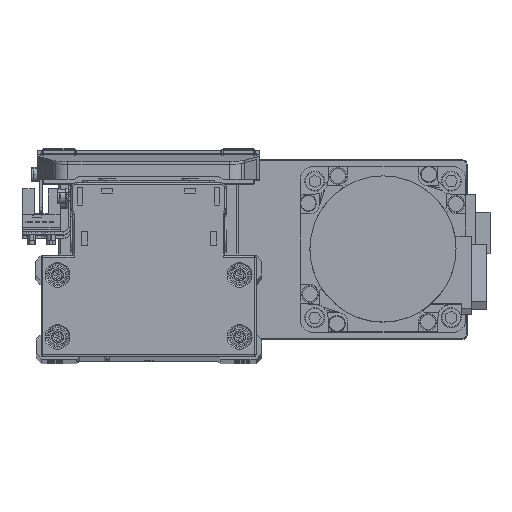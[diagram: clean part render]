
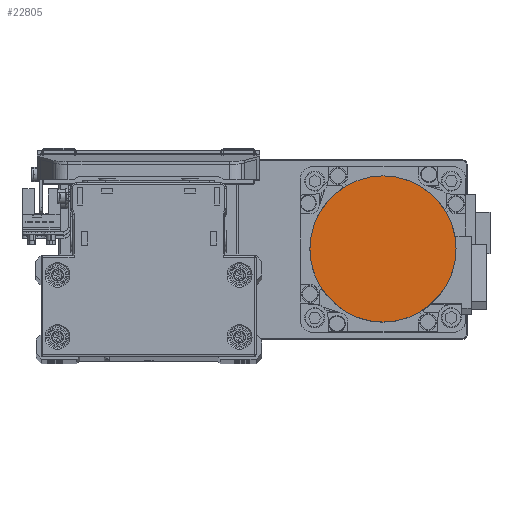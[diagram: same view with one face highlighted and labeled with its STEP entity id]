
A CAD part, top view. The second image highlights one B-rep face of the part: STEP entity #22805.
In plain terms, the highlighted planar face has unit normal (0, 0, 1) as drawn and (0, 0, -1) by its records, which use the part's own axes.
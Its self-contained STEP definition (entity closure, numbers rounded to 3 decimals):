
#348 = DIRECTION ( 'NONE',  ( 1., 0., 0. ) ) ;
#1349 = AXIS2_PLACEMENT_3D ( 'NONE', #16208, #28970, #348 ) ;
#2516 = AXIS2_PLACEMENT_3D ( 'NONE', #27361, #40122, #11467 ) ;
#3467 = PLANE ( 'NONE',  #1349 ) ;
#5609 = DIRECTION ( 'NONE',  ( -1., 0., 0. ) ) ;
#10304 = CARTESIAN_POINT ( 'NONE',  ( -26.5, 0., -109.7 ) ) ;
#11467 = DIRECTION ( 'NONE',  ( 1., 0., 0. ) ) ;
#12221 = EDGE_CURVE ( 'NONE', #33537, #35168, #31324, .T. ) ;
#13267 = AXIS2_PLACEMENT_3D ( 'NONE', #21510, #34262, #5609 ) ;
#16208 = CARTESIAN_POINT ( 'NONE',  ( 0., 0., -109.7 ) ) ;
#16267 = ORIENTED_EDGE ( 'NONE', *, *, #34657, .F. ) ;
#17826 = ORIENTED_EDGE ( 'NONE', *, *, #12221, .F. ) ;
#20529 = CIRCLE ( 'NONE', #2516, 26.5 ) ;
#21510 = CARTESIAN_POINT ( 'NONE',  ( 0., 0., -109.7 ) ) ;
#22805 = ADVANCED_FACE ( 'NONE', ( #32122 ), #3467, .F. ) ;
#27361 = CARTESIAN_POINT ( 'NONE',  ( 0., 0., -109.7 ) ) ;
#28970 = DIRECTION ( 'NONE',  ( 0., 0., 1. ) ) ;
#30682 = CARTESIAN_POINT ( 'NONE',  ( 26.5, 0., -109.7 ) ) ;
#31324 = CIRCLE ( 'NONE', #13267, 26.5 ) ;
#32122 = FACE_OUTER_BOUND ( 'NONE', #32569, .T. ) ;
#32569 = EDGE_LOOP ( 'NONE', ( #17826, #16267 ) ) ;
#33537 = VERTEX_POINT ( 'NONE', #10304 ) ;
#34262 = DIRECTION ( 'NONE',  ( 0., 0., 1. ) ) ;
#34657 = EDGE_CURVE ( 'NONE', #35168, #33537, #20529, .T. ) ;
#35168 = VERTEX_POINT ( 'NONE', #30682 ) ;
#40122 = DIRECTION ( 'NONE',  ( 0., 0., 1. ) ) ;
